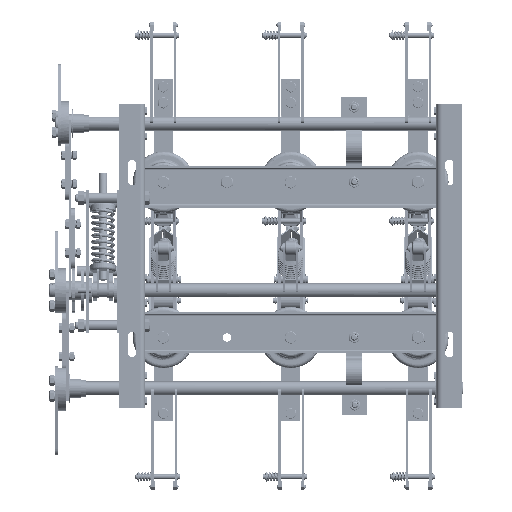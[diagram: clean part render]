
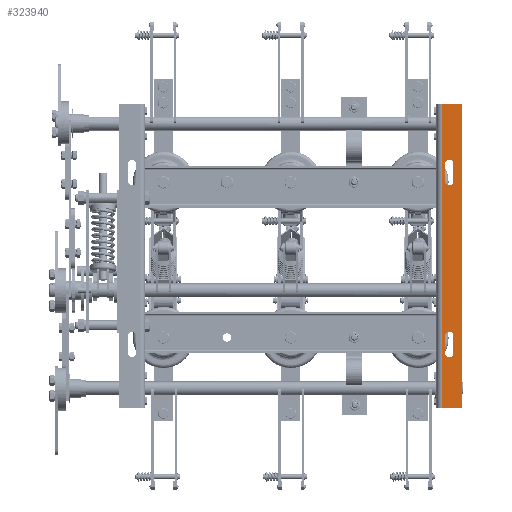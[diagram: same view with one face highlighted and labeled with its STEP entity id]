
A CAD part, front view. The second image highlights one B-rep face of the part: STEP entity #323940.
In plain terms, the highlighted planar face has unit normal (0, -1, 0).
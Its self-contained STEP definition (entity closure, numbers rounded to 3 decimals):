
#3625 = ORIENTED_EDGE ( 'NONE', *, *, #158153, .T. ) ;
#4398 = VERTEX_POINT ( 'NONE', #71102 ) ;
#6695 = DIRECTION ( 'NONE',  ( 1., 0., 0. ) ) ;
#9975 = LINE ( 'NONE', #38770, #142535 ) ;
#11876 = LINE ( 'NONE', #267277, #73978 ) ;
#14167 = EDGE_CURVE ( 'NONE', #306653, #288645, #205971, .T. ) ;
#14478 = LINE ( 'NONE', #343003, #279738 ) ;
#22717 = CARTESIAN_POINT ( 'NONE',  ( 237.005, 0.004, 241.996 ) ) ;
#28854 = CARTESIAN_POINT ( 'NONE',  ( 242.708, 0.004, -121.504 ) ) ;
#29230 = AXIS2_PLACEMENT_3D ( 'NONE', #292998, #134218, #319706 ) ;
#34845 = VECTOR ( 'NONE', #138448, 1000. ) ;
#35306 = VERTEX_POINT ( 'NONE', #240512 ) ;
#37320 = FACE_OUTER_BOUND ( 'NONE', #108555, .T. ) ;
#38770 = CARTESIAN_POINT ( 'NONE',  ( 269.208, 0.004, 241.996 ) ) ;
#49392 = DIRECTION ( 'NONE',  ( 0., 0., -1. ) ) ;
#51336 = CARTESIAN_POINT ( 'NONE',  ( 255.708, 0.004, 121.496 ) ) ;
#56226 = CARTESIAN_POINT ( 'NONE',  ( 242.708, 0.004, 121.496 ) ) ;
#59463 = CARTESIAN_POINT ( 'NONE',  ( 269.208, 0.004, -234.004 ) ) ;
#59574 = CARTESIAN_POINT ( 'NONE',  ( 237.005, 0.004, 241.996 ) ) ;
#62830 = CARTESIAN_POINT ( 'NONE',  ( 249.208, 0.004, -148.504 ) ) ;
#71102 = CARTESIAN_POINT ( 'NONE',  ( 237.005, 0.004, 241.996 ) ) ;
#71215 = VERTEX_POINT ( 'NONE', #87446 ) ;
#73978 = VECTOR ( 'NONE', #263835, 1000. ) ;
#87446 = CARTESIAN_POINT ( 'NONE',  ( 242.708, 0.004, 148.496 ) ) ;
#88745 = ORIENTED_EDGE ( 'NONE', *, *, #127142, .F. ) ;
#89425 = DIRECTION ( 'NONE',  ( 1., 0., 0. ) ) ;
#91148 = VERTEX_POINT ( 'NONE', #59463 ) ;
#95022 = VERTEX_POINT ( 'NONE', #28854 ) ;
#96953 = ORIENTED_EDGE ( 'NONE', *, *, #14167, .T. ) ;
#98210 = VERTEX_POINT ( 'NONE', #245805 ) ;
#98337 = DIRECTION ( 'NONE',  ( 0., 1., 0. ) ) ;
#99471 = FACE_BOUND ( 'NONE', #262120, .T. ) ;
#104379 = EDGE_CURVE ( 'NONE', #71215, #306653, #324193, .T. ) ;
#106019 = CARTESIAN_POINT ( 'NONE',  ( 249.208, 0.004, 148.496 ) ) ;
#108555 = EDGE_LOOP ( 'NONE', ( #3625, #219358, #88745, #184712 ) ) ;
#108966 = CARTESIAN_POINT ( 'NONE',  ( 269.208, 0.004, 241.996 ) ) ;
#115905 = EDGE_CURVE ( 'NONE', #288645, #197169, #195302, .T. ) ;
#116361 = VECTOR ( 'NONE', #301679, 1000. ) ;
#122303 = CARTESIAN_POINT ( 'NONE',  ( 237.005, 0.004, -234.004 ) ) ;
#126786 = EDGE_CURVE ( 'NONE', #91148, #324418, #246252, .T. ) ;
#127142 = EDGE_CURVE ( 'NONE', #340917, #91148, #9975, .T. ) ;
#130912 = DIRECTION ( 'NONE',  ( 0., 0., -1. ) ) ;
#132674 = DIRECTION ( 'NONE',  ( -1., 0., 0. ) ) ;
#134218 = DIRECTION ( 'NONE',  ( 0., 1., 0. ) ) ;
#134795 = ORIENTED_EDGE ( 'NONE', *, *, #176872, .T. ) ;
#135028 = CARTESIAN_POINT ( 'NONE',  ( 269.208, 0.004, -234.004 ) ) ;
#138448 = DIRECTION ( 'NONE',  ( -1., 0., 0. ) ) ;
#142535 = VECTOR ( 'NONE', #170762, 1000. ) ;
#144760 = CIRCLE ( 'NONE', #242680, 6.5 ) ;
#158153 = EDGE_CURVE ( 'NONE', #4398, #324418, #213849, .T. ) ;
#163026 = ORIENTED_EDGE ( 'NONE', *, *, #186586, .T. ) ;
#164980 = ORIENTED_EDGE ( 'NONE', *, *, #248024, .T. ) ;
#165280 = DIRECTION ( 'NONE',  ( 0., 1., 0. ) ) ;
#170762 = DIRECTION ( 'NONE',  ( 0., 0., -1. ) ) ;
#172983 = AXIS2_PLACEMENT_3D ( 'NONE', #203759, #98337, #283722 ) ;
#176006 = ORIENTED_EDGE ( 'NONE', *, *, #104379, .T. ) ;
#176872 = EDGE_CURVE ( 'NONE', #314325, #95022, #257268, .T. ) ;
#184712 = ORIENTED_EDGE ( 'NONE', *, *, #335057, .F. ) ;
#186586 = EDGE_CURVE ( 'NONE', #98210, #35306, #14478, .T. ) ;
#195302 = CIRCLE ( 'NONE', #212638, 6.5 ) ;
#197169 = VERTEX_POINT ( 'NONE', #56226 ) ;
#197666 = VECTOR ( 'NONE', #282221, 1000. ) ;
#201185 = EDGE_CURVE ( 'NONE', #35306, #314325, #144760, .T. ) ;
#202962 = CARTESIAN_POINT ( 'NONE',  ( 242.708, 0.004, -148.504 ) ) ;
#203759 = CARTESIAN_POINT ( 'NONE',  ( 269.208, 0.004, 229.996 ) ) ;
#205478 = VECTOR ( 'NONE', #49392, 1000. ) ;
#205971 = LINE ( 'NONE', #255478, #197666 ) ;
#212638 = AXIS2_PLACEMENT_3D ( 'NONE', #324163, #165280, #6695 ) ;
#213849 = LINE ( 'NONE', #22717, #205478 ) ;
#218286 = DIRECTION ( 'NONE',  ( 1., 0., 0. ) ) ;
#219358 = ORIENTED_EDGE ( 'NONE', *, *, #126786, .F. ) ;
#219988 = EDGE_LOOP ( 'NONE', ( #163026, #259115, #134795, #233916 ) ) ;
#233916 = ORIENTED_EDGE ( 'NONE', *, *, #289525, .T. ) ;
#240512 = CARTESIAN_POINT ( 'NONE',  ( 255.708, 0.004, -148.504 ) ) ;
#242680 = AXIS2_PLACEMENT_3D ( 'NONE', #62830, #248130, #89425 ) ;
#245805 = CARTESIAN_POINT ( 'NONE',  ( 255.708, 0.004, -121.504 ) ) ;
#246252 = LINE ( 'NONE', #135028, #34845 ) ;
#248024 = EDGE_CURVE ( 'NONE', #197169, #71215, #11876, .T. ) ;
#248130 = DIRECTION ( 'NONE',  ( 0., 1., 0. ) ) ;
#255478 = CARTESIAN_POINT ( 'NONE',  ( 255.708, 0.004, 148.496 ) ) ;
#257268 = LINE ( 'NONE', #274979, #116361 ) ;
#258032 = CIRCLE ( 'NONE', #29230, 6.5 ) ;
#259115 = ORIENTED_EDGE ( 'NONE', *, *, #201185, .T. ) ;
#262120 = EDGE_LOOP ( 'NONE', ( #96953, #272146, #164980, #176006 ) ) ;
#263835 = DIRECTION ( 'NONE',  ( 0., 0., 1. ) ) ;
#266439 = VECTOR ( 'NONE', #218286, 1000. ) ;
#267277 = CARTESIAN_POINT ( 'NONE',  ( 242.708, 0.004, 121.496 ) ) ;
#272146 = ORIENTED_EDGE ( 'NONE', *, *, #115905, .T. ) ;
#274979 = CARTESIAN_POINT ( 'NONE',  ( 242.708, 0.004, -148.504 ) ) ;
#279738 = VECTOR ( 'NONE', #130912, 1000. ) ;
#282221 = DIRECTION ( 'NONE',  ( 0., 0., -1. ) ) ;
#283722 = DIRECTION ( 'NONE',  ( 1., 0., 0. ) ) ;
#288645 = VERTEX_POINT ( 'NONE', #51336 ) ;
#289525 = EDGE_CURVE ( 'NONE', #95022, #98210, #258032, .T. ) ;
#291480 = DIRECTION ( 'NONE',  ( 0., 1., 0. ) ) ;
#292998 = CARTESIAN_POINT ( 'NONE',  ( 249.208, 0.004, -121.504 ) ) ;
#295303 = AXIS2_PLACEMENT_3D ( 'NONE', #106019, #291480, #132674 ) ;
#301679 = DIRECTION ( 'NONE',  ( 0., 0., 1. ) ) ;
#306653 = VERTEX_POINT ( 'NONE', #308766 ) ;
#308766 = CARTESIAN_POINT ( 'NONE',  ( 255.708, 0.004, 148.496 ) ) ;
#309282 = PLANE ( 'NONE',  #172983 ) ;
#310991 = FACE_BOUND ( 'NONE', #219988, .T. ) ;
#314325 = VERTEX_POINT ( 'NONE', #202962 ) ;
#319706 = DIRECTION ( 'NONE',  ( -1., 0., 0. ) ) ;
#323940 = ADVANCED_FACE ( 'NONE', ( #37320, #99471, #310991 ), #309282, .F. ) ;
#324163 = CARTESIAN_POINT ( 'NONE',  ( 249.208, 0.004, 121.496 ) ) ;
#324193 = CIRCLE ( 'NONE', #295303, 6.5 ) ;
#324418 = VERTEX_POINT ( 'NONE', #122303 ) ;
#328748 = LINE ( 'NONE', #59574, #266439 ) ;
#335057 = EDGE_CURVE ( 'NONE', #4398, #340917, #328748, .T. ) ;
#340917 = VERTEX_POINT ( 'NONE', #108966 ) ;
#343003 = CARTESIAN_POINT ( 'NONE',  ( 255.708, 0.004, -121.504 ) ) ;
